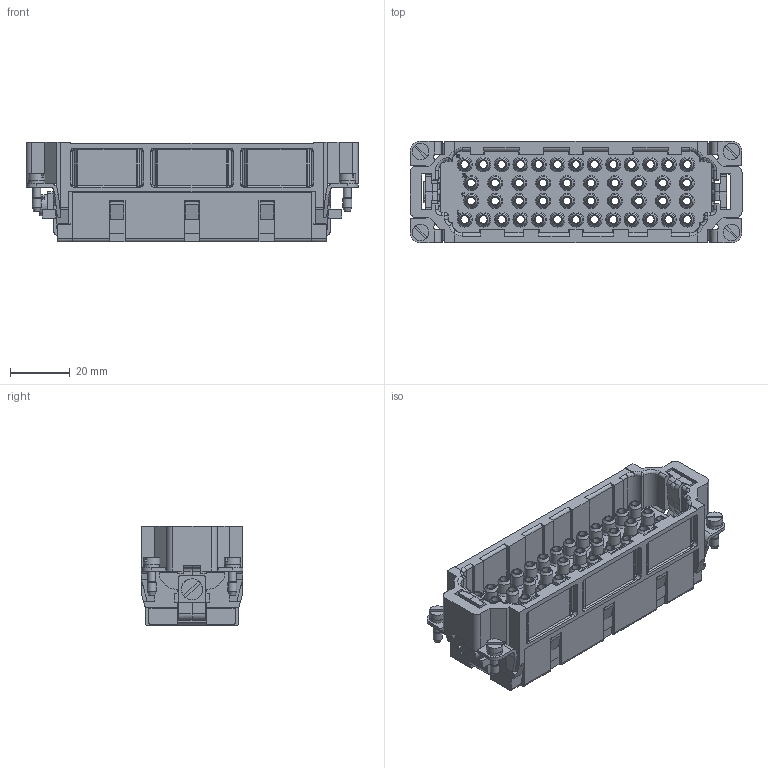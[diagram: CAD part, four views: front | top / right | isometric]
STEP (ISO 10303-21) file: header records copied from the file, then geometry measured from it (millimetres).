
FILE_DESCRIPTION(/* description */ (''),/* implementation_level */ '2;1');
FILE_NAME(/* name */ 'HEE-046-M.stp',/* time_stamp */ '2023-08-18T12:57:01+08:00',/* author */ (''),/* organization */ (''),/* preprocessor_version */ 'ST-DEVELOPER v16.7',/* originating_system */ 'SIEMENS PLM Software NX 12.0',/* authorisation */ '');
FILE_SCHEMA (('AUTOMOTIVE_DESIGN { 1 0 10303 214 3 1 1 1 }'));
Products named in the file (1): 09320463001_100581552MOD000D_stp
Bounding box: 111 x 34 x 33.39 mm (x, y, z)
Volume: 49112.8 mm3; surface area: 50912.5 mm2
Topology: 1 solids, 8 shells, 2501 faces, 6649 edges, 4254 vertices
Faces by surface type: plane 1398, cylinder 630, cone 239, bspline 124, extrusion 106, sphere 4
Full cylindrical faces by diameter (mm): 0.6 x2, 2.47 x3, 2.6 x46, 2.7 x6, 3 x4, 4 x1, 4.2 x46, 4.8 x46, 5.3 x4, 5.5 x4, 7 x1
Entity records: 95774 total; most frequent: CARTESIAN_POINT 19455, ORIENTED_EDGE 12632, DIRECTION 11968, EDGE_CURVE 6316, VERTEX_POINT 4233, AXIS2_PLACEMENT_3D 4090, VECTOR 3788, LINE 3682
